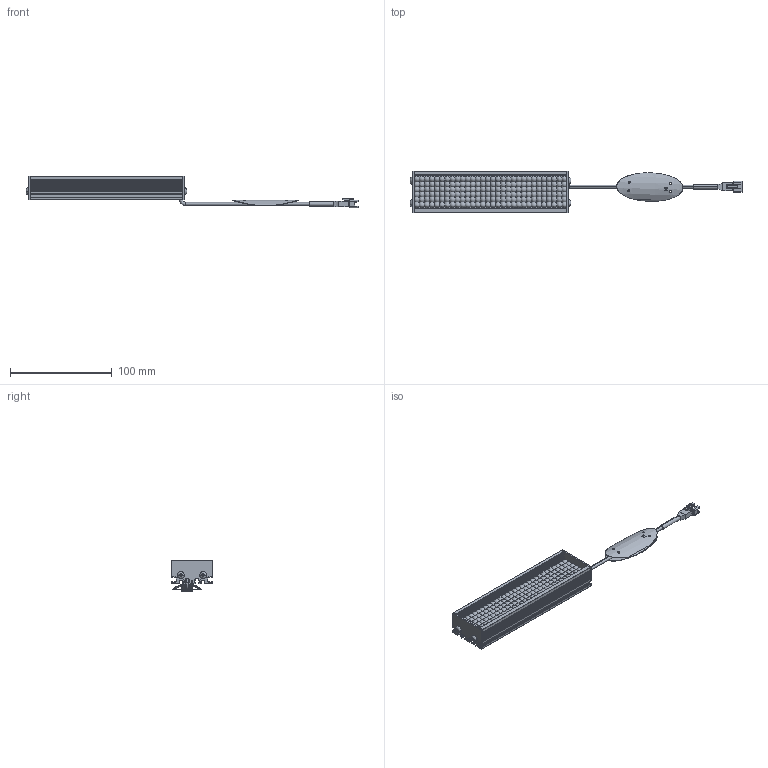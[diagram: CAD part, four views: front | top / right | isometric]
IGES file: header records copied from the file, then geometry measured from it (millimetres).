
Start section: 3D InterOp IGES (v. 2019 1.0.2), Spatial Corp. Copyright (c) 1999-2017.
Global section: file name: VBA-15030_DRAWING_3D.iges; native system: Spatial Corp.; preprocessor: 3D InterOp ACIS/IGES; author: Noname; organization: Noname; date: 20230914.100810; units: millimetre
Bounding box: 326 x 41 x 30.5 mm (x, y, z)
Surface area: 70533.2 mm2 (no closed solid volume)
Topology: 0 solids, 0 shells, 1452 faces, 8446 edges, 8446 vertices
Faces by surface type: extrusion 742, revolution 704, bspline 6
